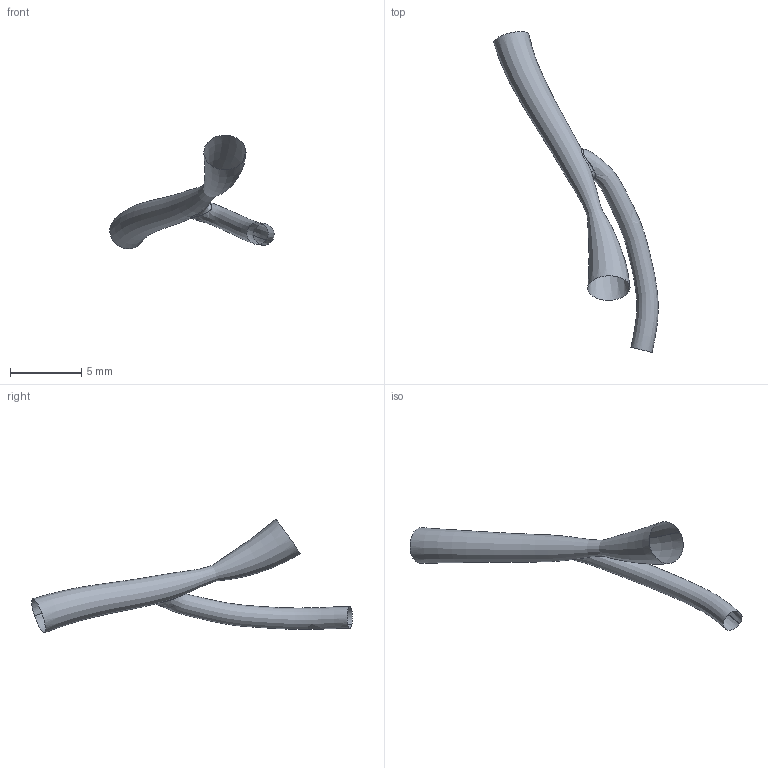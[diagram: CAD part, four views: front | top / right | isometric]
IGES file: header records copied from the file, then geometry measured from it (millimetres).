
Global section: file name: C:\Documents and Settings\Administrator\Desktop\FDA Bifurcation win\RawData_for_IGES\HRCA_Data\20010926.103228\IGES\20010926.103228.RM2.BIFUR.ES.igs; native system: Rhinoceros ( May 19 2006 ); preprocessor: Trout Lake IGES 012 May 19 2006; date: 100728.212631; units: centimetre
Bounding box: 11.56 x 22.55 x 7.99 mm (x, y, z)
Surface area: 197.4 mm2 (no closed solid volume)
Topology: 0 solids, 0 shells, 5 faces, 62 edges, 59 vertices
Faces by surface type: bspline 5
